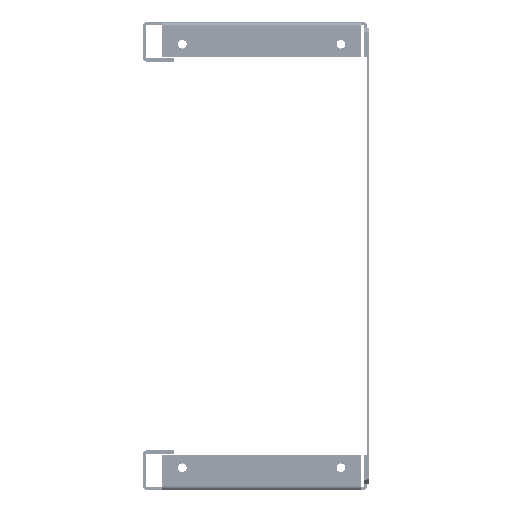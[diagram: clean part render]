
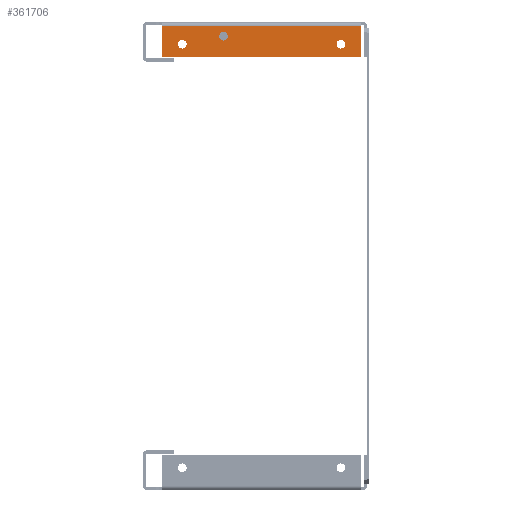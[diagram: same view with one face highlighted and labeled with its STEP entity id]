
A CAD part, left-side view. The second image highlights one B-rep face of the part: STEP entity #361706.
In plain terms, the highlighted planar face has unit normal (-1, 0, 0).
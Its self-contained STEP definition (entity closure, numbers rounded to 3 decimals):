
#301206=CARTESIAN_POINT(' ',(-845.,56.25,-2.6));
#301207=VERTEX_POINT(' ',#301206);
#301221=CARTESIAN_POINT(' ',(-845.,-68.75,-2.6));
#301226=DIRECTION(' ',(0.,1.,0.));
#301231=VECTOR(' ',#301226,1.);
#301236=LINE('',#301221,#301231);
#301241=CARTESIAN_POINT(' ',(-845.,-68.75,-2.6));
#301242=VERTEX_POINT(' ',#301241);
#301246=EDGE_CURVE(' ',#301242,#301207,#301236,.T.);
#325061=CARTESIAN_POINT(' ',(-845.,56.25,-22.));
#325062=VERTEX_POINT(' ',#325061);
#325076=CARTESIAN_POINT(' ',(-845.,56.25,-22.));
#325081=DIRECTION(' ',(0.,0.,1.));
#325086=VECTOR(' ',#325081,1.);
#325091=LINE('',#325076,#325086);
#325096=EDGE_CURVE(' ',#325062,#301207,#325091,.T.);
#361326=DIRECTION(' ',(-1.,0.,0.));
#361331=CARTESIAN_POINT(' ',(-845.,-68.75,-22.));
#361336=DIRECTION(' ',(0.,0.,1.));
#361341=AXIS2_PLACEMENT_3D(' ',#361331,#361326,#361336);
#361346=PLANE('NONE',#361341);
#361351=CARTESIAN_POINT(' ',(-845.,-68.75,-22.));
#361356=DIRECTION(' ',(0.,1.,0.));
#361361=VECTOR(' ',#361356,1.);
#361366=LINE('',#361351,#361361);
#361371=CARTESIAN_POINT(' ',(-845.,-68.75,-22.));
#361372=VERTEX_POINT(' ',#361371);
#361376=EDGE_CURVE(' ',#361372,#325062,#361366,.T.);
#361381=ORIENTED_EDGE(' ',*,*,#361376,.F.);
#361386=CARTESIAN_POINT(' ',(-845.,-68.75,-2.6));
#361391=DIRECTION(' ',(0.,0.,-1.));
#361396=VECTOR(' ',#361391,1.);
#361401=LINE('',#361386,#361396);
#361406=EDGE_CURVE(' ',#301242,#361372,#361401,.T.);
#361411=ORIENTED_EDGE(' ',*,*,#361406,.F.);
#361416=ORIENTED_EDGE(' ',*,*,#301246,.T.);
#361421=ORIENTED_EDGE(' ',*,*,#325096,.F.);
#361426=EDGE_LOOP(' ',(#361381,#361411,#361416,#361421));
#361431=FACE_OUTER_BOUND(' ',#361426,.T.);
#361436=CARTESIAN_POINT(' ',(-845.,-56.25,-14.));
#361441=DIRECTION(' ',(-1.,0.,0.));
#361446=DIRECTION(' ',(0.,0.,1.));
#361451=AXIS2_PLACEMENT_3D(' ',#361436,#361441,#361446);
#361456=CIRCLE('',#361451,2.75);
#361461=CARTESIAN_POINT(' ',(-845.,-56.25,-11.25));
#361462=VERTEX_POINT(' ',#361461);
#361466=CARTESIAN_POINT(' ',(-845.,-56.25,-16.75));
#361467=VERTEX_POINT(' ',#361466);
#361471=EDGE_CURVE(' ',#361462,#361467,#361456,.T.);
#361476=ORIENTED_EDGE(' ',*,*,#361471,.F.);
#361481=CARTESIAN_POINT(' ',(-845.,-56.25,-14.));
#361486=DIRECTION(' ',(-1.,0.,0.));
#361491=DIRECTION(' ',(0.,0.,-1.));
#361496=AXIS2_PLACEMENT_3D(' ',#361481,#361486,#361491);
#361501=CIRCLE('',#361496,2.75);
#361506=EDGE_CURVE(' ',#361467,#361462,#361501,.T.);
#361511=ORIENTED_EDGE(' ',*,*,#361506,.F.);
#361516=EDGE_LOOP(' ',(#361476,#361511));
#361521=FACE_BOUND(' ',#361516,.T.);
#361526=CARTESIAN_POINT(' ',(-845.,43.75,-14.));
#361531=DIRECTION(' ',(-1.,-0.,0.));
#361536=DIRECTION(' ',(0.,0.,1.));
#361541=AXIS2_PLACEMENT_3D(' ',#361526,#361531,#361536);
#361546=CIRCLE('',#361541,2.75);
#361551=CARTESIAN_POINT(' ',(-845.,43.75,-11.25));
#361552=VERTEX_POINT(' ',#361551);
#361556=CARTESIAN_POINT(' ',(-845.,43.75,-16.75));
#361557=VERTEX_POINT(' ',#361556);
#361561=EDGE_CURVE(' ',#361552,#361557,#361546,.T.);
#361566=ORIENTED_EDGE(' ',*,*,#361561,.F.);
#361571=CARTESIAN_POINT(' ',(-845.,43.75,-14.));
#361576=DIRECTION(' ',(-1.,0.,0.));
#361581=DIRECTION(' ',(0.,0.,-1.));
#361586=AXIS2_PLACEMENT_3D(' ',#361571,#361576,#361581);
#361591=CIRCLE('',#361586,2.75);
#361596=EDGE_CURVE(' ',#361557,#361552,#361591,.T.);
#361601=ORIENTED_EDGE(' ',*,*,#361596,.F.);
#361606=EDGE_LOOP(' ',(#361566,#361601));
#361611=FACE_BOUND(' ',#361606,.T.);
#361616=CARTESIAN_POINT(' ',(-845.,17.75,-9.));
#361621=DIRECTION(' ',(-1.,0.,-0.));
#361626=DIRECTION(' ',(0.,-1.,0.));
#361631=AXIS2_PLACEMENT_3D(' ',#361616,#361621,#361626);
#361636=CIRCLE('',#361631,2.75);
#361641=CARTESIAN_POINT(' ',(-845.,15.,-9.));
#361642=VERTEX_POINT(' ',#361641);
#361646=CARTESIAN_POINT(' ',(-845.,20.5,-9.));
#361647=VERTEX_POINT(' ',#361646);
#361651=EDGE_CURVE(' ',#361642,#361647,#361636,.T.);
#361656=ORIENTED_EDGE(' ',*,*,#361651,.F.);
#361661=CARTESIAN_POINT(' ',(-845.,17.75,-9.));
#361666=DIRECTION(' ',(-1.,0.,0.));
#361671=DIRECTION(' ',(0.,1.,0.));
#361676=AXIS2_PLACEMENT_3D(' ',#361661,#361666,#361671);
#361681=CIRCLE('',#361676,2.75);
#361686=EDGE_CURVE(' ',#361647,#361642,#361681,.T.);
#361691=ORIENTED_EDGE(' ',*,*,#361686,.F.);
#361696=EDGE_LOOP(' ',(#361656,#361691));
#361701=FACE_BOUND(' ',#361696,.T.);
#361706=ADVANCED_FACE('NONE',(#361431,#361521,#361611,#361701),#361346,.T.);
